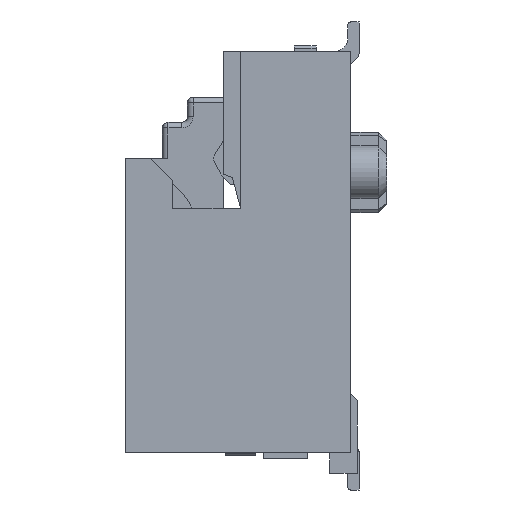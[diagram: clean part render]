
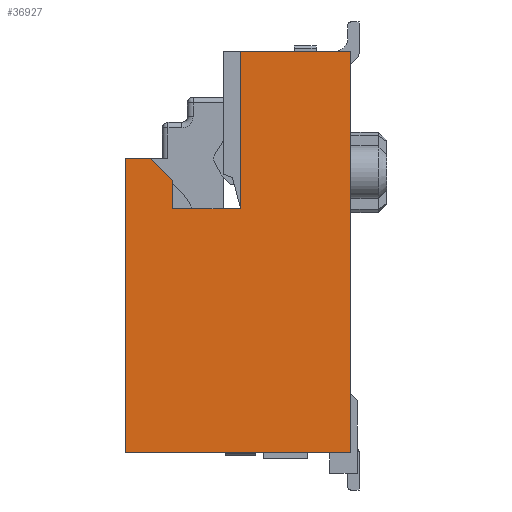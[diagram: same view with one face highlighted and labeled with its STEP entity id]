
A CAD part, left-side view. The second image highlights one B-rep face of the part: STEP entity #36927.
In plain terms, the highlighted planar face has unit normal (-1, 0, 0).
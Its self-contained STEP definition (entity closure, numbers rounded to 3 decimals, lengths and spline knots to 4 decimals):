
#384=DIRECTION('',(0.,0.,-1.));
#385=VECTOR('',#384,2.82);
#386=CARTESIAN_POINT('',(-10.95,4.56,3.92));
#387=LINE('',#386,#385);
#388=DIRECTION('',(0.,-1.,0.));
#389=VECTOR('',#388,1.98);
#390=CARTESIAN_POINT('',(-10.95,4.56,3.92));
#391=LINE('',#390,#389);
#392=DIRECTION('',(0.,0.,-1.));
#393=VECTOR('',#392,7.2);
#394=CARTESIAN_POINT('',(-10.95,2.58,3.92));
#395=LINE('',#394,#393);
#396=DIRECTION('',(0.,1.,0.));
#397=VECTOR('',#396,4.05);
#398=CARTESIAN_POINT('',(-10.95,2.58,-3.28));
#399=LINE('',#398,#397);
#400=DIRECTION('',(0.,-1.,0.));
#401=VECTOR('',#400,0.45);
#402=CARTESIAN_POINT('',(-10.95,6.63,2.));
#403=LINE('',#402,#401);
#404=DIRECTION('',(0.,0.707,0.707));
#405=VECTOR('',#404,0.5657);
#406=CARTESIAN_POINT('',(-10.95,5.78,1.6));
#407=LINE('',#406,#405);
#408=DIRECTION('',(0.,0.,-1.));
#409=VECTOR('',#408,0.5);
#410=CARTESIAN_POINT('',(-10.95,5.78,1.6));
#411=LINE('',#410,#409);
#416=DIRECTION('',(0.,1.,0.));
#417=VECTOR('',#416,1.22);
#418=CARTESIAN_POINT('',(-10.95,4.56,1.1));
#419=LINE('',#418,#417);
#20879=DIRECTION('',(0.,0.,-1.));
#20880=VECTOR('',#20879,5.28);
#20881=CARTESIAN_POINT('',(-10.95,6.63,2.));
#20882=LINE('',#20881,#20880);
#31786=CARTESIAN_POINT('',(-10.95,2.58,3.92));
#31787=CARTESIAN_POINT('',(-10.95,2.58,-3.28));
#31788=VERTEX_POINT('',#31786);
#31789=VERTEX_POINT('',#31787);
#33490=CARTESIAN_POINT('',(-10.95,6.63,-3.28));
#33492=VERTEX_POINT('',#33490);
#36212=CARTESIAN_POINT('',(-10.95,6.63,2.));
#36213=VERTEX_POINT('',#36212);
#36767=CARTESIAN_POINT('',(-10.95,5.78,1.1));
#36769=VERTEX_POINT('',#36767);
#36774=CARTESIAN_POINT('',(-10.95,5.78,1.6));
#36775=CARTESIAN_POINT('',(-10.95,6.18,2.));
#36776=VERTEX_POINT('',#36774);
#36777=VERTEX_POINT('',#36775);
#36782=CARTESIAN_POINT('',(-10.95,4.56,3.92));
#36783=CARTESIAN_POINT('',(-10.95,4.56,1.1));
#36784=VERTEX_POINT('',#36782);
#36785=VERTEX_POINT('',#36783);
#36902=CARTESIAN_POINT('',(-10.95,0.,0.));
#36903=DIRECTION('',(1.,0.,0.));
#36904=DIRECTION('',(0.,0.,-1.));
#36905=AXIS2_PLACEMENT_3D('',#36902,#36903,#36904);
#36906=PLANE('',#36905);
#36908=ORIENTED_EDGE('',*,*,#36907,.F.);
#36910=ORIENTED_EDGE('',*,*,#36909,.F.);
#36912=ORIENTED_EDGE('',*,*,#36911,.T.);
#36914=ORIENTED_EDGE('',*,*,#36913,.T.);
#36916=ORIENTED_EDGE('',*,*,#36915,.T.);
#36918=ORIENTED_EDGE('',*,*,#36917,.F.);
#36920=ORIENTED_EDGE('',*,*,#36919,.T.);
#36922=ORIENTED_EDGE('',*,*,#36921,.F.);
#36924=ORIENTED_EDGE('',*,*,#36923,.T.);
#36925=EDGE_LOOP('',(#36908,#36910,#36912,#36914,#36916,#36918,#36920,#36922,
#36924));
#36926=FACE_OUTER_BOUND('',#36925,.F.);
#36907=EDGE_CURVE('',#36785,#36769,#419,.T.);
#36909=EDGE_CURVE('',#36784,#36785,#387,.T.);
#36911=EDGE_CURVE('',#36784,#31788,#391,.T.);
#36913=EDGE_CURVE('',#31788,#31789,#395,.T.);
#36915=EDGE_CURVE('',#31789,#33492,#399,.T.);
#36917=EDGE_CURVE('',#36213,#33492,#20882,.T.);
#36919=EDGE_CURVE('',#36213,#36777,#403,.T.);
#36921=EDGE_CURVE('',#36776,#36777,#407,.T.);
#36923=EDGE_CURVE('',#36776,#36769,#411,.T.);
#36927=ADVANCED_FACE('',(#36926),#36906,.F.);
